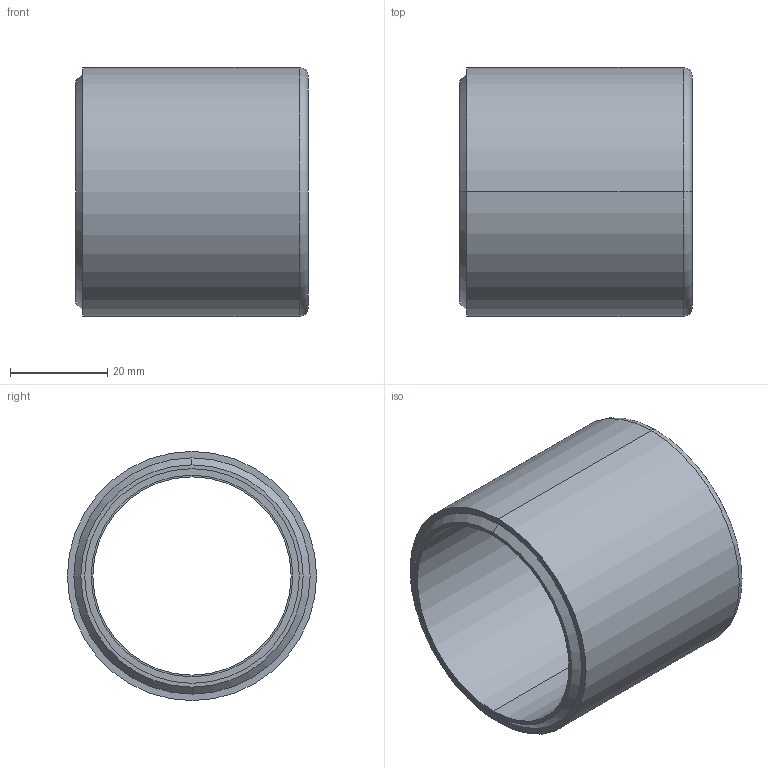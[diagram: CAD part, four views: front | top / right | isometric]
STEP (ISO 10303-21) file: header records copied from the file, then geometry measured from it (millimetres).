
FILE_DESCRIPTION (( 'STEP AP214' ), '1' );
FILE_NAME ('CR-INFV-10-11.STEP', '2020-12-10T16:59:21', ( '' ), ( '' ), 'SwSTEP 2.0', 'SolidWorks 2019', '' );
FILE_SCHEMA (( 'AUTOMOTIVE_DESIGN' ));
Length unit declared in the file: inch
Products named in the file (1): CR-INFV-10-11
Bounding box: 47.99 x 51.33 x 51.33 mm (x, y, z)
Volume: 28644.9 mm3; surface area: 15477.3 mm2
Topology: 1 solids, 1 shells, 20 faces, 40 edges, 26 vertices
Faces by surface type: cylinder 10, plane 6, cone 2, torus 2
Entity records: 840 total; most frequent: DIRECTION 110, CARTESIAN_POINT 87, ORIENTED_EDGE 80, AXIS2_PLACEMENT_3D 49, EDGE_CURVE 40, CIRCLE 28, VERTEX_POINT 26, EDGE_LOOP 26
